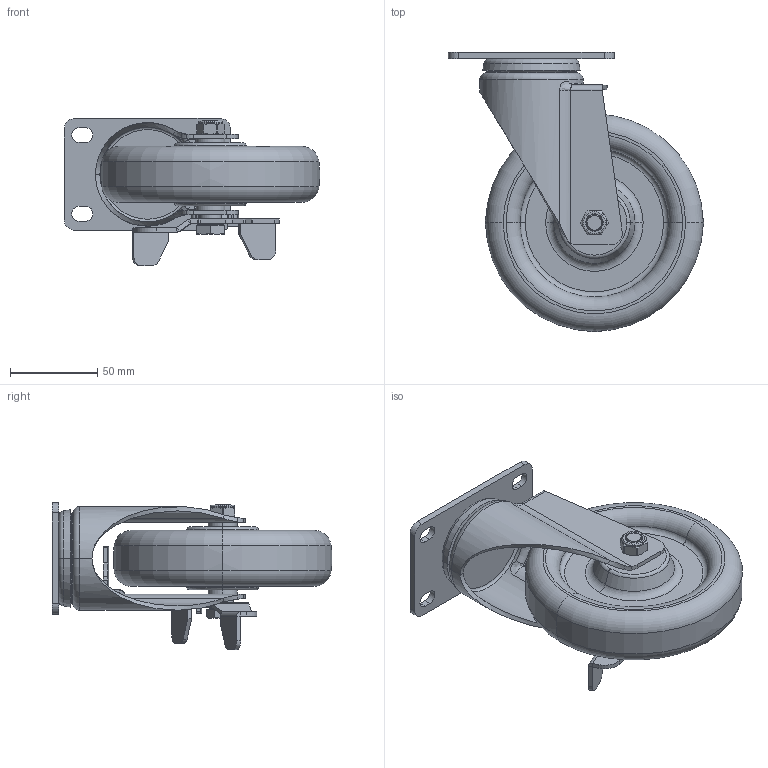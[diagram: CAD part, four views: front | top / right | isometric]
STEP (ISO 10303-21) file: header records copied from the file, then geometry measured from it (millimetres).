
FILE_DESCRIPTION((''),'2;1');
FILE_NAME('50125C-505-86_ASM','2020-01-07T',('L'),(''),'PRO/ENGINEER BY PARAMETRIC TECHNOLOGY CORPORATION, 2010280','PRO/ENGINEER BY PARAMETRIC TECHNOLOGY CORPORATION, 2010280','');
FILE_SCHEMA(('CONFIG_CONTROL_DESIGN'));
Length unit declared in the file: millimetre
Products named in the file (7): 50125C; 505-986; 502-33; 570-34; 503-15; 500-14; 50125C-505-86_ASM
Assembly tree (6 placements, depth 2):
  50125C-505-86_ASM
    50125C
    505-986
    502-33
    570-34
    503-15
    500-14
Bounding box: 145.95 x 159.95 x 84.14 mm (x, y, z)
Volume: 378533.4 mm3; surface area: 91704.2 mm2
Topology: 6 solids, 6 shells, 425 faces, 1024 edges, 626 vertices
Faces by surface type: cylinder 154, plane 150, bspline 50, torus 38, cone 33
Entity records: 20915 total; most frequent: CARTESIAN_POINT 11191, ORIENTED_EDGE 2048, DIRECTION 1901, EDGE_CURVE 1024, AXIS2_PLACEMENT_3D 712, VERTEX_POINT 626, VECTOR 477, LINE 477
